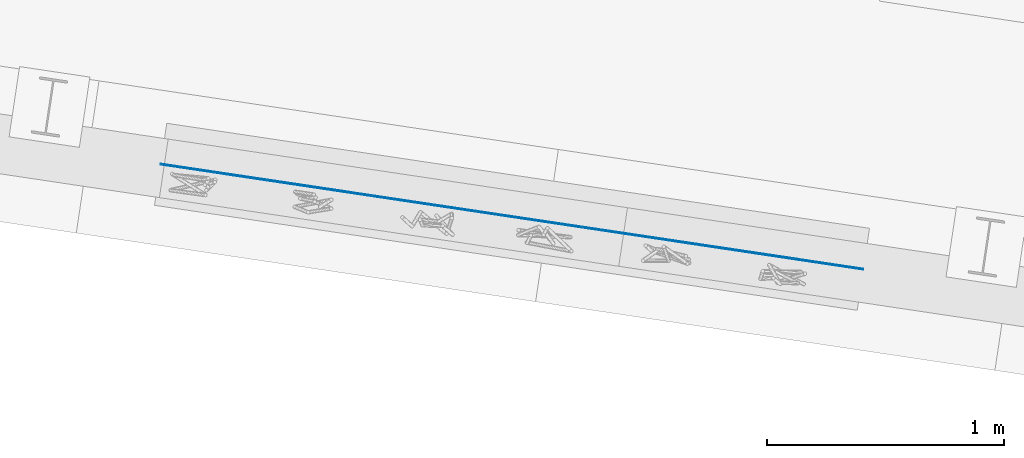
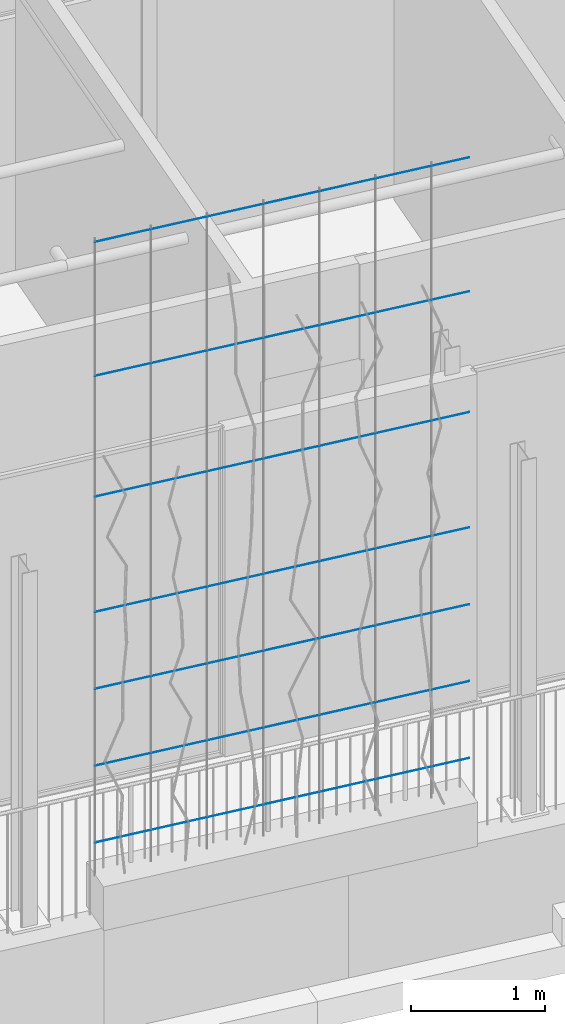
# One storey, part 66 of 142: 7 members, 1 element without a shape of its own.
"""IFC4 building model written with IfcOpenShell, lengths in metres."""

from ifc_helpers import new_model, si_unit, direction, frame, origin_with_axes, place, context, subcontext, project, spatial, circle, extrude, material, material_profile, profile_set, profile_usage, type_object, element, aggregate, save


model = new_model("IFC4")

# Units and contexts
model_context = context("Model", 3, precision=1e-05, world=origin_with_axes(), true_north=direction((0.0, 1.0)))
body_context = subcontext(model_context, "Body", "Model", "MODEL_VIEW")
ifc_project = project(units=[si_unit("VOLUMEUNIT", "CUBIC_METRE"), si_unit("LENGTHUNIT", "METRE"), si_unit("AREAUNIT", "SQUARE_METRE")], contexts=[model_context])

# Site, building, storey
site_placement = place(None, origin_with_axes())
site = spatial("IfcSite", under=ifc_project, at=site_placement, Name="Lares · Rua das Mercês · artigo 4771")
building_placement = place(site_placement, frame((12.0, 10.2, 13.9), z_axis=(0.0, 0.0, 1.0), x_axis=(0.989015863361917, -0.147809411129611, 0.0)))
building = spatial("IfcBuilding", under=site, at=building_placement, Name="Casa Sobreposta")
storey_placement = place(building_placement, origin_with_axes())
storey = spatial("IfcBuildingStorey", under=building, at=storey_placement, Name="00 · Habitação e estacionamento", Elevation=13.9)

# Assembly, members
assembly_placement = place(storey_placement, origin_with_axes())
assembly = element("IfcElementAssembly", 1, at=assembly_placement, inside=storey, Name="Fachada sul e pátio · estrutura e trepadeiras", ObjectType="LIVING_SHADE_TRELLIS", PredefinedType="USERDEFINED")
ifc_material = material(Name="Aço galvanizado / Stahl verzinkt", Category="steel")
ifc_material_profile = material_profile(ifc_material, circle(Radius=0.002))
ifc_profile_set = profile_set([ifc_material_profile], Name="D0.004")
ifc_profile_usage_1 = profile_usage(ifc_profile_set)
member_type = type_object("IfcMemberType", Name="D0.004 / galvanized", PredefinedType="NOTDEFINED", material=ifc_profile_set)
member_1_placement = place(assembly_placement, frame((12.5, -1.61, 0.65), z_axis=(1.0, 0.0, 0.0), x_axis=(0.0, -1.0, 0.0)))
member_1 = element("IfcMember", 2, at=member_1_placement, type_object=member_type, material=ifc_profile_usage_1, Name="Trepadeiras · fio horizontal", context=body_context, shape_type="SweptSolid", body=[
    extrude(circle(Radius=0.002), origin_with_axes(), (0.0, 0.0, 1.0), 3.0),
])
ifc_profile_usage_2 = profile_usage(ifc_profile_set)
member_2_placement = place(assembly_placement, frame((12.5, -1.61, 1.35), z_axis=(1.0, 0.0, 0.0), x_axis=(0.0, -1.0, 0.0)))
member_2 = element("IfcMember", 3, at=member_2_placement, type_object=member_type, material=ifc_profile_usage_2, Name="Trepadeiras · fio horizontal", context=body_context, shape_type="SweptSolid", body=[
    extrude(circle(Radius=0.002), origin_with_axes(), (0.0, 0.0, 1.0), 3.0),
])
ifc_profile_usage_3 = profile_usage(ifc_profile_set)
member_3_placement = place(assembly_placement, frame((12.5, -1.61, 2.05), z_axis=(1.0, 0.0, 0.0), x_axis=(0.0, -1.0, 0.0)))
member_3 = element("IfcMember", 4, at=member_3_placement, type_object=member_type, material=ifc_profile_usage_3, Name="Trepadeiras · fio horizontal", context=body_context, shape_type="SweptSolid", body=[
    extrude(circle(Radius=0.002), origin_with_axes(), (0.0, 0.0, 1.0), 3.0),
])
ifc_profile_usage_4 = profile_usage(ifc_profile_set)
member_4_placement = place(assembly_placement, frame((12.5, -1.61, 2.75), z_axis=(1.0, 0.0, 0.0), x_axis=(0.0, -1.0, 0.0)))
member_4 = element("IfcMember", 5, at=member_4_placement, type_object=member_type, material=ifc_profile_usage_4, Name="Trepadeiras · fio horizontal", context=body_context, shape_type="SweptSolid", body=[
    extrude(circle(Radius=0.002), origin_with_axes(), (0.0, 0.0, 1.0), 3.0),
])
ifc_profile_usage_5 = profile_usage(ifc_profile_set)
member_5_placement = place(assembly_placement, frame((12.5, -1.61, 3.8), z_axis=(1.0, 0.0, 0.0), x_axis=(0.0, -1.0, 0.0)))
member_5 = element("IfcMember", 6, at=member_5_placement, type_object=member_type, material=ifc_profile_usage_5, Name="Trepadeiras · fio horizontal", context=body_context, shape_type="SweptSolid", body=[
    extrude(circle(Radius=0.002), origin_with_axes(), (0.0, 0.0, 1.0), 3.0),
])
ifc_profile_usage_6 = profile_usage(ifc_profile_set)
member_6_placement = place(assembly_placement, frame((12.5, -1.61, 4.9), z_axis=(1.0, 0.0, 0.0), x_axis=(0.0, -1.0, 0.0)))
member_6 = element("IfcMember", 7, at=member_6_placement, type_object=member_type, material=ifc_profile_usage_6, Name="Trepadeiras · fio horizontal", context=body_context, shape_type="SweptSolid", body=[
    extrude(circle(Radius=0.002), origin_with_axes(), (0.0, 0.0, 1.0), 3.0),
])
ifc_profile_usage_7 = profile_usage(ifc_profile_set)
member_7_placement = place(assembly_placement, frame((12.5, -1.61, 6.12), z_axis=(1.0, 0.0, 0.0), x_axis=(0.0, -1.0, 0.0)))
member_7 = element("IfcMember", 8, at=member_7_placement, type_object=member_type, material=ifc_profile_usage_7, Name="Trepadeiras · fio horizontal", context=body_context, shape_type="SweptSolid", body=[
    extrude(circle(Radius=0.002), origin_with_axes(), (0.0, 0.0, 1.0), 3.0),
])
aggregate(assembly, [member_1, member_2, member_3, member_4, member_5, member_6, member_7])

save(model, "model.ifc")
